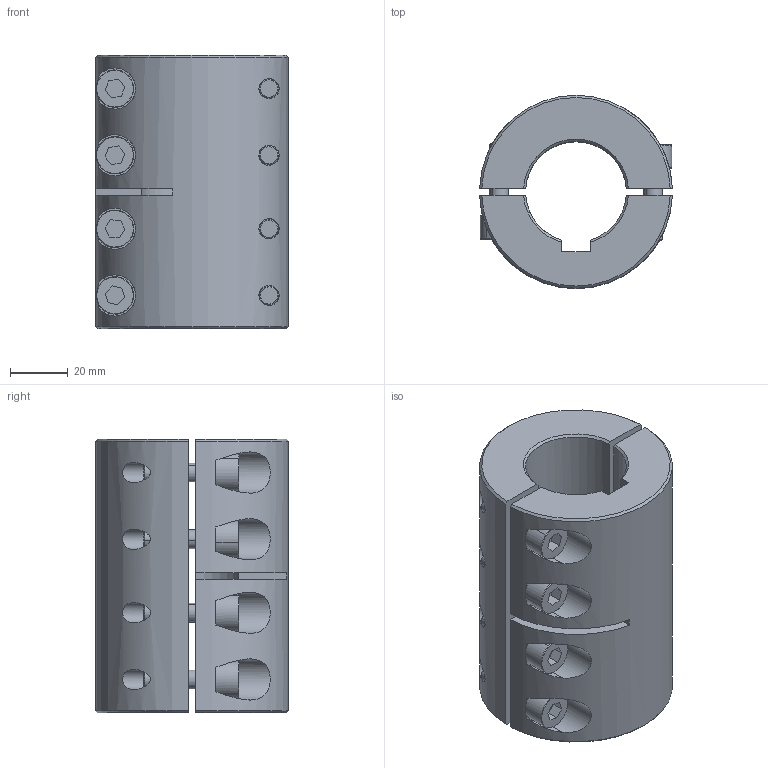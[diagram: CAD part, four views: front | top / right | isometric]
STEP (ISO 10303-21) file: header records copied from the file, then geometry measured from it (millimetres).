
FILE_DESCRIPTION((''),'2;1');
FILE_NAME('MSPC-35-35-X','2016-09-08T',('SYSTEM'),(''),'PRO/ENGINEER BY PARAMETRIC TECHNOLOGY CORPORATION, 2015110','PRO/ENGINEER BY PARAMETRIC TECHNOLOGY CORPORATION, 2015110','');
FILE_SCHEMA(('AUTOMOTIVE_DESIGN { 1 0 10303 214 1 1 1 1 }'));
Length unit declared in the file: inch
Products named in the file (1): MSPC-35-35-X
Bounding box: 66.96 x 67 x 95 mm (x, y, z)
Volume: 221337.5 mm3; surface area: 56794.9 mm2
Topology: 2 solids, 2 shells, 242 faces, 570 edges, 364 vertices
Faces by surface type: plane 115, cylinder 85, cone 42
Entity records: 9236 total; most frequent: CARTESIAN_POINT 1766, DIRECTION 1206, ORIENTED_EDGE 1140, PRESENTATION_STYLE_ASSIGNMENT 572, STYLED_ITEM 572, CURVE_STYLE 570, EDGE_CURVE 570, AXIS2_PLACEMENT_3D 446
